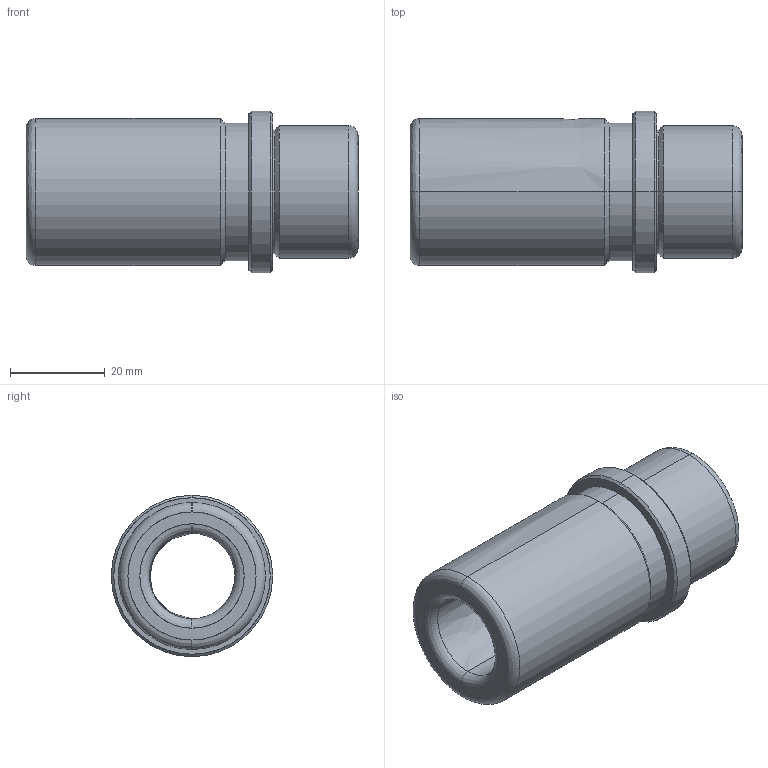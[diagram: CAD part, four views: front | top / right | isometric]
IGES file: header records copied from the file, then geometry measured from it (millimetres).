
Start section: START RECORD GO HERE.
Global section: file name: FAMO-SF1-E18 x 70.igs; native system: DASSAULT SYSTEMES CATIA V5 R20 - www.3ds.com; preprocessor: CATIA Version 5 Release 20 ; author: Utente; organization: NB04-ASUS; date: 20210106.174359; units: millimetre
Bounding box: 70 x 34 x 34 mm (x, y, z)
Surface area: 12037.4 mm2 (no closed solid volume)
Topology: 0 solids, 0 shells, 37 faces, 234 edges, 234 vertices
Faces by surface type: revolution 32, plane 5
